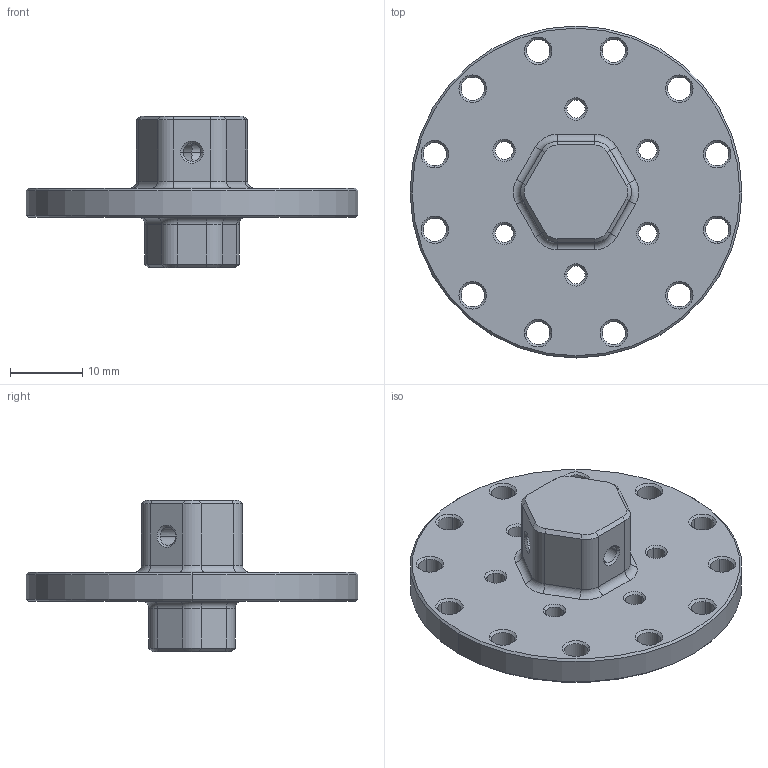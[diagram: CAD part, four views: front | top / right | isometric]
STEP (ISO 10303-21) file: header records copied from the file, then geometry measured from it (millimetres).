
FILE_DESCRIPTION((''),'2;1');
FILE_NAME('JXB-NE30C-PAN-XIN','2019-12-03T',('Win10'),(''),'PRO/ENGINEER BY PARAMETRIC TECHNOLOGY CORPORATION, 2010280','PRO/ENGINEER BY PARAMETRIC TECHNOLOGY CORPORATION, 2010280','');
FILE_SCHEMA(('AUTOMOTIVE_DESIGN_CC2 { 1 2 10303 214 -1 1 5 2 }'));
Length unit declared in the file: millimetre
Products named in the file (1): JXB-NE30C-PAN-XIN
Bounding box: 46 x 46 x 21 mm (x, y, z)
Volume: 8559.7 mm3; surface area: 5036.9 mm2
Topology: 1 solids, 1 shells, 202 faces, 464 edges, 265 vertices
Faces by surface type: cone 94, cylinder 68, plane 28, torus 12
Entity records: 7175 total; most frequent: DIRECTION 1098, CARTESIAN_POINT 977, ORIENTED_EDGE 928, PRESENTATION_STYLE_ASSIGNMENT 465, STYLED_ITEM 465, CURVE_STYLE 464, EDGE_CURVE 464, AXIS2_PLACEMENT_3D 438
